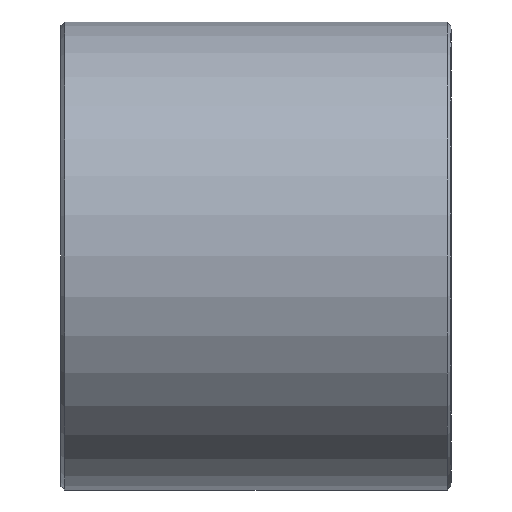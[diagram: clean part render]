
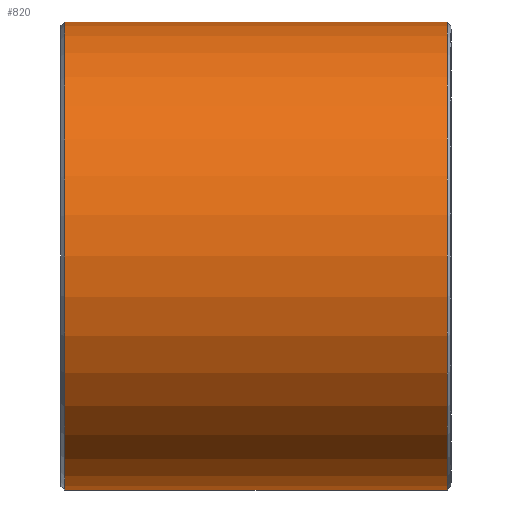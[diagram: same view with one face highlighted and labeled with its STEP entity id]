
A CAD part, left-side view. The second image highlights one B-rep face of the part: STEP entity #820.
In plain terms, the highlighted cylindrical face has radius 30 mm (diameter 60 mm), a partial arc.
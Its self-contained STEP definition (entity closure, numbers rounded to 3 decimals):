
#55 = CARTESIAN_POINT ( 'NONE',  ( 0., 65.513, 30. ) ) ;
#59 = EDGE_CURVE ( 'NONE', #1216, #472, #1145, .T. ) ;
#87 = EDGE_CURVE ( 'NONE', #438, #1216, #522, .T. ) ;
#105 = VECTOR ( 'NONE', #154, 1000. ) ;
#110 = VERTEX_POINT ( 'NONE', #1245 ) ;
#154 = DIRECTION ( 'NONE',  ( 0., 1., 0. ) ) ;
#174 = CARTESIAN_POINT ( 'NONE',  ( 0., 65.513, 0. ) ) ;
#228 = AXIS2_PLACEMENT_3D ( 'NONE', #174, #1062, #868 ) ;
#238 = AXIS2_PLACEMENT_3D ( 'NONE', #646, #353, #362 ) ;
#292 = ORIENTED_EDGE ( 'NONE', *, *, #351, .T. ) ;
#303 = DIRECTION ( 'NONE',  ( 0., 1., 0. ) ) ;
#317 = LINE ( 'NONE', #805, #1051 ) ;
#345 = ORIENTED_EDGE ( 'NONE', *, *, #1081, .F. ) ;
#351 = EDGE_CURVE ( 'NONE', #472, #110, #1218, .T. ) ;
#353 = DIRECTION ( 'NONE',  ( 0., 1., 0. ) ) ;
#362 = DIRECTION ( 'NONE',  ( 0., 0., -1. ) ) ;
#368 = FACE_OUTER_BOUND ( 'NONE', #476, .T. ) ;
#378 = DIRECTION ( 'NONE',  ( 0., -1., 0. ) ) ;
#438 = VERTEX_POINT ( 'NONE', #669 ) ;
#472 = VERTEX_POINT ( 'NONE', #798 ) ;
#476 = EDGE_LOOP ( 'NONE', ( #345, #691, #1040, #292 ) ) ;
#487 = CARTESIAN_POINT ( 'NONE',  ( 0., 1., 0. ) ) ;
#522 = CIRCLE ( 'NONE', #238, 30. ) ;
#539 = CARTESIAN_POINT ( 'NONE',  ( 0., -48., 30. ) ) ;
#646 = CARTESIAN_POINT ( 'NONE',  ( 0., -48., 0. ) ) ;
#669 = CARTESIAN_POINT ( 'NONE',  ( 0., -48., -30. ) ) ;
#691 = ORIENTED_EDGE ( 'NONE', *, *, #87, .T. ) ;
#733 = AXIS2_PLACEMENT_3D ( 'NONE', #487, #378, #1180 ) ;
#798 = CARTESIAN_POINT ( 'NONE',  ( 0., 1., 30. ) ) ;
#805 = CARTESIAN_POINT ( 'NONE',  ( 0., 65.513, -30. ) ) ;
#820 = ADVANCED_FACE ( 'NONE', ( #368 ), #1257, .T. ) ;
#868 = DIRECTION ( 'NONE',  ( 0., 0., 1. ) ) ;
#1040 = ORIENTED_EDGE ( 'NONE', *, *, #59, .T. ) ;
#1051 = VECTOR ( 'NONE', #303, 1000. ) ;
#1062 = DIRECTION ( 'NONE',  ( 0., 1., 0. ) ) ;
#1081 = EDGE_CURVE ( 'NONE', #438, #110, #317, .T. ) ;
#1145 = LINE ( 'NONE', #55, #105 ) ;
#1180 = DIRECTION ( 'NONE',  ( 0., 0., 1. ) ) ;
#1216 = VERTEX_POINT ( 'NONE', #539 ) ;
#1218 = CIRCLE ( 'NONE', #733, 30. ) ;
#1245 = CARTESIAN_POINT ( 'NONE',  ( 0., 1., -30. ) ) ;
#1257 = CYLINDRICAL_SURFACE ( 'NONE', #228, 30. ) ;
